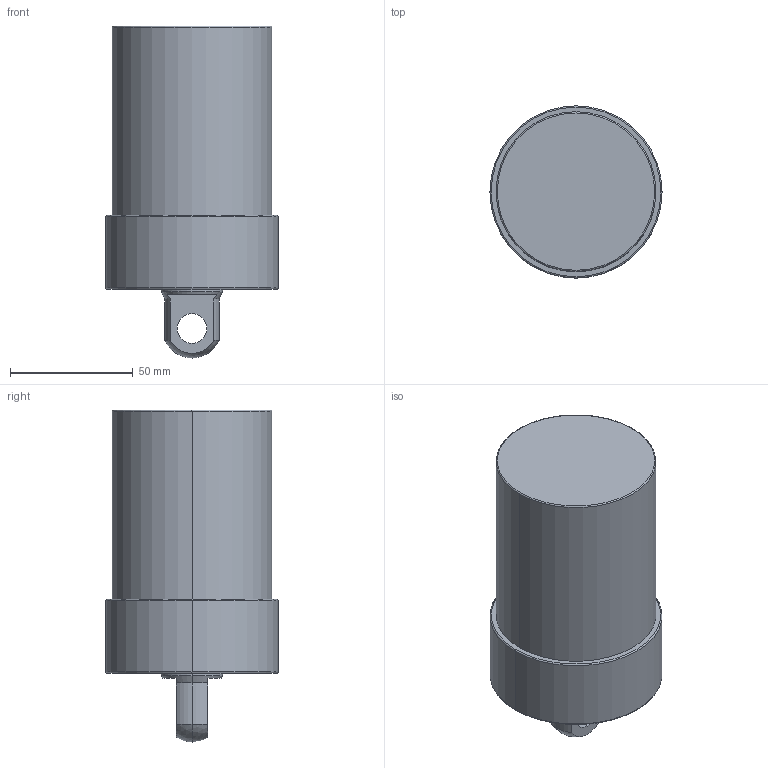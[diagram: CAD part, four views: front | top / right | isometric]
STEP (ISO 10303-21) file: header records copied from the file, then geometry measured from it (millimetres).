
FILE_DESCRIPTION (( 'STEP AP203' ), '1' );
FILE_NAME ('CLLU-065GP-060.STEP', '2020-01-06T09:25:25', ( '' ), ( '' ), 'SwSTEP 2.0', 'SolidWorks 2015', '' );
FILE_SCHEMA (( 'CONFIG_CONTROL_DESIGN' ));
Length unit declared in the file: millimetre
Products named in the file (1): CLLU-065GP-060
Bounding box: 70 x 70 x 135 mm (x, y, z)
Volume: 375151.3 mm3; surface area: 32818.8 mm2
Topology: 1 solids, 1 shells, 58 faces, 131 edges, 75 vertices
Faces by surface type: cylinder 23, cone 18, plane 9, torus 6, sphere 2
Entity records: 1658 total; most frequent: DIRECTION 311, CARTESIAN_POINT 269, ORIENTED_EDGE 246, AXIS2_PLACEMENT_3D 133, EDGE_CURVE 123, VERTEX_POINT 75, CIRCLE 74, EDGE_LOOP 68
